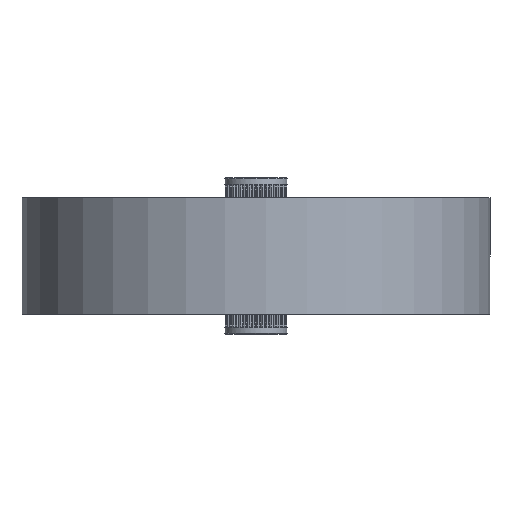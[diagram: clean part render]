
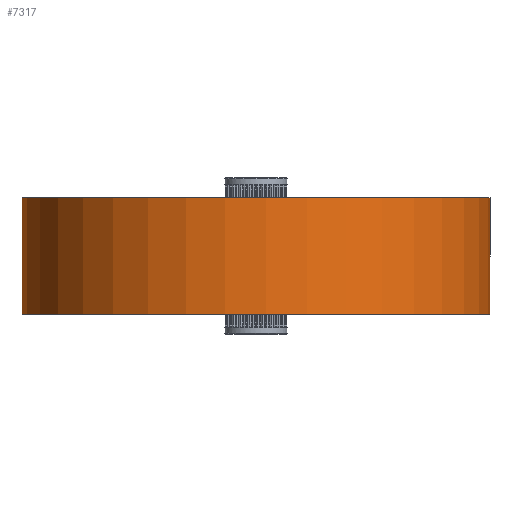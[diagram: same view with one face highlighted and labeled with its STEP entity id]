
A CAD part, front view. The second image highlights one B-rep face of the part: STEP entity #7317.
In plain terms, the highlighted cylindrical face has radius 30 mm (diameter 60 mm), a full revolution.
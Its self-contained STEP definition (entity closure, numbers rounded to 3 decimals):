
#4558=CARTESIAN_POINT('',(18.268,23.797,10.856));
#4559=VERTEX_POINT('',#4558);
#4560=CARTESIAN_POINT('',(0.0,0.0,10.856));
#4561=DIRECTION('',(0.0,0.0,1.0));
#4562=DIRECTION('',(-0.609,-0.793,0.0));
#4563=AXIS2_PLACEMENT_3D('',#4560,#4561,#4562);
#4564=CIRCLE('',#4563,30.0);
#4565=EDGE_CURVE('',#4559,#4559,#4564,.T.);
#6100=CARTESIAN_POINT('',(18.268,23.797,-4.064));
#6101=VERTEX_POINT('',#6100);
#6102=CARTESIAN_POINT('',(0.0,0.0,-4.064));
#6103=DIRECTION('',(0.0,0.0,-1.0));
#6104=DIRECTION('',(-0.609,-0.793,0.0));
#6105=AXIS2_PLACEMENT_3D('',#6102,#6103,#6104);
#6106=CIRCLE('',#6105,30.0);
#6107=EDGE_CURVE('',#6101,#6101,#6106,.T.);
#7306=CARTESIAN_POINT('',(0.0,0.0,-4.064));
#7307=DIRECTION('',(0.0,0.0,1.0));
#7308=DIRECTION('',(-0.609,-0.793,0.0));
#7309=AXIS2_PLACEMENT_3D('',#7306,#7307,#7308);
#7310=CYLINDRICAL_SURFACE('',#7309,30.0);
#7311=ORIENTED_EDGE('',*,*,#4565,.F.);
#7312=EDGE_LOOP('',(#7311));
#7313=FACE_OUTER_BOUND('',#7312,.T.);
#7314=ORIENTED_EDGE('',*,*,#6107,.F.);
#7315=EDGE_LOOP('',(#7314));
#7316=FACE_BOUND('',#7315,.T.);
#7317=ADVANCED_FACE('',(#7313,#7316),#7310,.T.);
